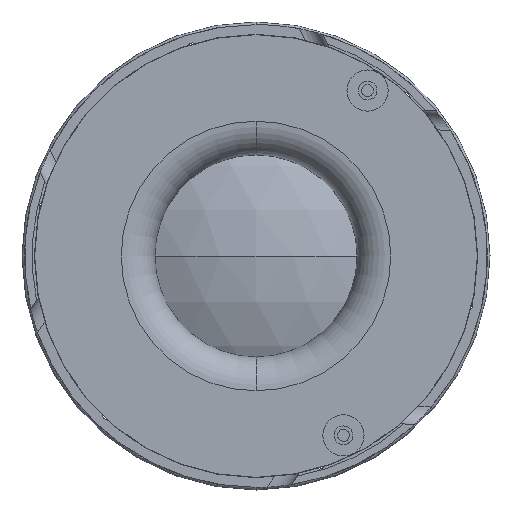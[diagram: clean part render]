
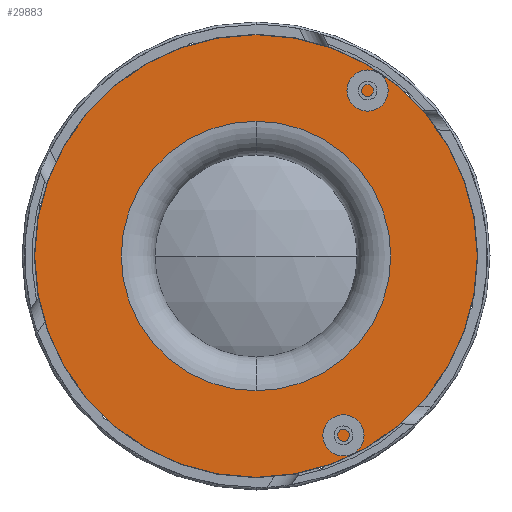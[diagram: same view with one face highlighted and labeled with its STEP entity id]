
A CAD part, front view. The second image highlights one B-rep face of the part: STEP entity #29883.
In plain terms, the highlighted planar face has unit normal (0, -1, 0).
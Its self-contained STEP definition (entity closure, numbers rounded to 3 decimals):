
#10545 = EDGE_LOOP ( 'NONE', ( #113047, #203147 ) ) ;
#15469 = VERTEX_POINT ( 'NONE', #137073 ) ;
#15546 = PLANE ( 'NONE',  #182271 ) ;
#16254 = CARTESIAN_POINT ( 'NONE',  ( 59.2, -25., 0. ) ) ;
#23770 = VERTEX_POINT ( 'NONE', #147969 ) ;
#29883 = ADVANCED_FACE ( 'NONE', ( #71913, #128829 ), #15546, .T. ) ;
#53587 = VERTEX_POINT ( 'NONE', #71651 ) ;
#62154 = DIRECTION ( 'NONE',  ( 0., 0., -1. ) ) ;
#64032 = DIRECTION ( 'NONE',  ( 0., -1., 0. ) ) ;
#68111 = DIRECTION ( 'NONE',  ( 0., -1., 0. ) ) ;
#71651 = CARTESIAN_POINT ( 'NONE',  ( 0., -25., 59.1 ) ) ;
#71913 = FACE_OUTER_BOUND ( 'NONE', #73747, .T. ) ;
#73747 = EDGE_LOOP ( 'NONE', ( #182624, #75099 ) ) ;
#75099 = ORIENTED_EDGE ( 'NONE', *, *, #82206, .T. ) ;
#82206 = EDGE_CURVE ( 'NONE', #53587, #23770, #110329, .T. ) ;
#84811 = CARTESIAN_POINT ( 'NONE',  ( 0., -25., 0. ) ) ;
#88637 = EDGE_CURVE ( 'NONE', #15469, #140557, #171008, .T. ) ;
#89248 = DIRECTION ( 'NONE',  ( 0., 0., -1. ) ) ;
#98563 = AXIS2_PLACEMENT_3D ( 'NONE', #84811, #68111, #200048 ) ;
#98647 = EDGE_CURVE ( 'NONE', #140557, #15469, #172118, .T. ) ;
#110329 = CIRCLE ( 'NONE', #125148, 59.1 ) ;
#113047 = ORIENTED_EDGE ( 'NONE', *, *, #98647, .F. ) ;
#121192 = DIRECTION ( 'NONE',  ( 0., -1., 0. ) ) ;
#125148 = AXIS2_PLACEMENT_3D ( 'NONE', #145548, #162881, #62154 ) ;
#128829 = FACE_BOUND ( 'NONE', #10545, .T. ) ;
#130001 = DIRECTION ( 'NONE',  ( 0., 0., -1. ) ) ;
#130940 = CIRCLE ( 'NONE', #201104, 59.1 ) ;
#137073 = CARTESIAN_POINT ( 'NONE',  ( 0., -25., 36. ) ) ;
#140557 = VERTEX_POINT ( 'NONE', #143937 ) ;
#143937 = CARTESIAN_POINT ( 'NONE',  ( 0., -25., -36. ) ) ;
#145548 = CARTESIAN_POINT ( 'NONE',  ( 0., -25., 0. ) ) ;
#147969 = CARTESIAN_POINT ( 'NONE',  ( 0., -25., -59.1 ) ) ;
#155258 = CARTESIAN_POINT ( 'NONE',  ( 0., -25., 0. ) ) ;
#162881 = DIRECTION ( 'NONE',  ( 0., -1., 0. ) ) ;
#166926 = DIRECTION ( 'NONE',  ( 0., -1., 0. ) ) ;
#171008 = CIRCLE ( 'NONE', #98563, 36. ) ;
#172118 = CIRCLE ( 'NONE', #173963, 36. ) ;
#173963 = AXIS2_PLACEMENT_3D ( 'NONE', #182183, #166926, #198916 ) ;
#182183 = CARTESIAN_POINT ( 'NONE',  ( 0., -25., 0. ) ) ;
#182271 = AXIS2_PLACEMENT_3D ( 'NONE', #16254, #64032, #130001 ) ;
#182624 = ORIENTED_EDGE ( 'NONE', *, *, #212279, .T. ) ;
#198916 = DIRECTION ( 'NONE',  ( 0., 0., -1. ) ) ;
#200048 = DIRECTION ( 'NONE',  ( 0., 0., -1. ) ) ;
#201104 = AXIS2_PLACEMENT_3D ( 'NONE', #155258, #121192, #89248 ) ;
#203147 = ORIENTED_EDGE ( 'NONE', *, *, #88637, .F. ) ;
#212279 = EDGE_CURVE ( 'NONE', #23770, #53587, #130940, .T. ) ;
